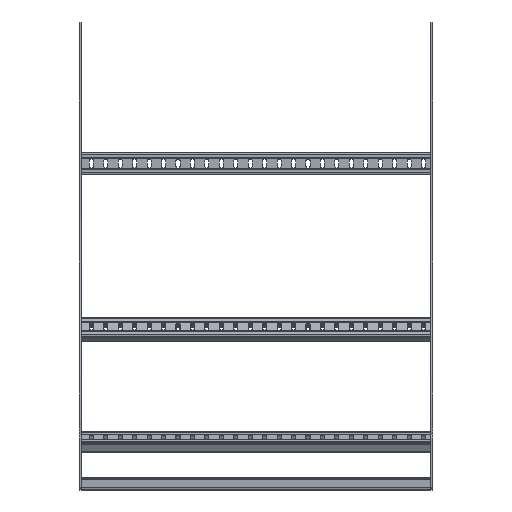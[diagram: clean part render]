
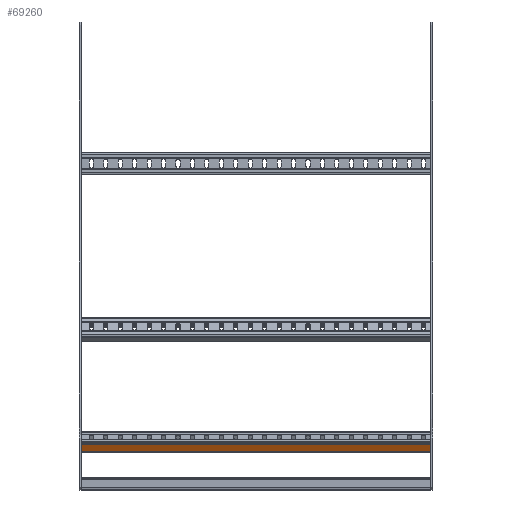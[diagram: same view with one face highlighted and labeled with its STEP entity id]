
A CAD part, front view. The second image highlights one B-rep face of the part: STEP entity #69260.
In plain terms, the highlighted planar face has unit normal (0, -0.866, -0.5) as drawn and (1, 0, 0) by its records, which use the part's own axes.
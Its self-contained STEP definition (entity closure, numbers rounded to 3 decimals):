
#27880=CARTESIAN_POINT('',(39.5,881.5,-202.5));
#27890=VERTEX_POINT('',#27880);
#27920=CARTESIAN_POINT('',(39.5,0.,-202.5));
#27930=DIRECTION('',(0.,-1.,0.));
#27940=VECTOR('',#27930,1.);
#27950=LINE('',#27920,#27940);
#27960=CARTESIAN_POINT('',(39.5,896.5,-202.5));
#27970=VERTEX_POINT('',#27960);
#27980=EDGE_CURVE('',#27970,#27890,#27950,.T.);
#30780=CARTESIAN_POINT('',(39.5,896.5,402.5));
#30790=VERTEX_POINT('',#30780);
#30820=CARTESIAN_POINT('',(39.5,0.,402.5));
#30830=DIRECTION('',(0.,1.,0.));
#30840=VECTOR('',#30830,1.);
#30850=LINE('',#30820,#30840);
#30860=CARTESIAN_POINT('',(39.5,881.5,402.5));
#30870=VERTEX_POINT('',#30860);
#30880=EDGE_CURVE('',#30870,#30790,#30850,.T.);
#69010=CARTESIAN_POINT('',(39.5,881.5,340.));
#69020=DIRECTION('',(0.,0.,1.));
#69030=VECTOR('',#69020,1.);
#69040=LINE('',#69010,#69030);
#69050=EDGE_CURVE('',#27890,#30870,#69040,.T.);
#69100=CARTESIAN_POINT('',(39.5,900.,340.));
#69110=DIRECTION('',(1.,0.,0.));
#69120=DIRECTION('',(0.,-1.,0.));
#69130=AXIS2_PLACEMENT_3D('',#69100,#69110,#69120);
#69140=PLANE('',#69130);
#69150=CARTESIAN_POINT('',(39.5,896.5,40.));
#69160=DIRECTION('',(0.,0.,1.));
#69170=VECTOR('',#69160,1.);
#69180=LINE('',#69150,#69170);
#69190=EDGE_CURVE('',#27970,#30790,#69180,.T.);
#69200=ORIENTED_EDGE('',*,*,#69190,.T.);
#69210=ORIENTED_EDGE('',*,*,#27980,.F.);
#69220=ORIENTED_EDGE('',*,*,#69050,.F.);
#69230=ORIENTED_EDGE('',*,*,#30880,.F.);
#69240=EDGE_LOOP('',(#69230,#69220,#69210,#69200));
#69250=FACE_OUTER_BOUND('',#69240,.T.);
#69260=ADVANCED_FACE('',(#69250),#69140,.T.);
